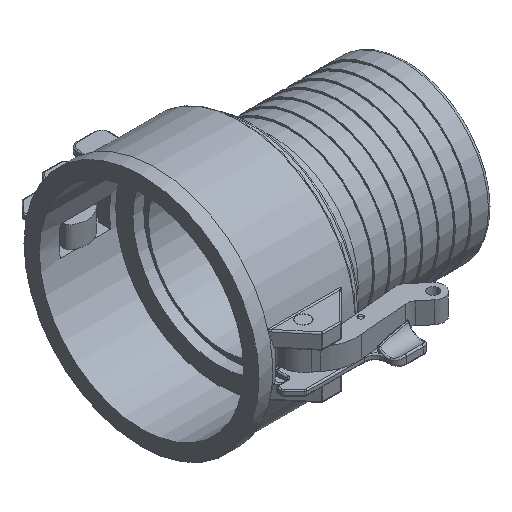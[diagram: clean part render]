
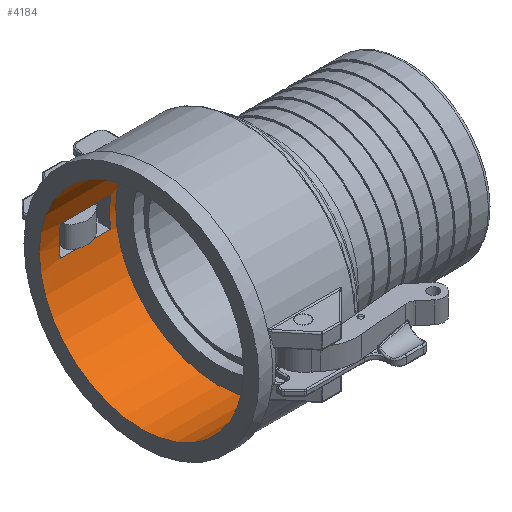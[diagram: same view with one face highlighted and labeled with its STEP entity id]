
A CAD part, isometric view. The second image highlights one B-rep face of the part: STEP entity #4184.
In plain terms, the highlighted cylindrical face has radius 60.198 mm (diameter 120.396 mm), a full revolution.
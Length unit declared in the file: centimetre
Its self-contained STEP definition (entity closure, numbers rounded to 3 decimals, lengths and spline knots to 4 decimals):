
#313=VECTOR('',#5525,1.);
#333=VECTOR('',#5613,1.);
#352=VECTOR('',#5698,1.);
#354=VECTOR('',#5709,1.);
#513=LINE('',#8021,#313);
#533=LINE('',#8384,#333);
#552=LINE('',#8708,#352);
#554=LINE('',#8719,#354);
#1562=VERTEX_POINT('',#8020);
#1563=VERTEX_POINT('',#8022);
#1581=VERTEX_POINT('',#8383);
#1582=VERTEX_POINT('',#8385);
#1600=VERTEX_POINT('',#8707);
#1601=VERTEX_POINT('',#8709);
#1602=VERTEX_POINT('',#8716);
#1603=VERTEX_POINT('',#8718);
#1604=VERTEX_POINT('',#8725);
#1605=VERTEX_POINT('',#8727);
#1832=CIRCLE('',#4647,6.0198);
#1833=CIRCLE('',#4648,6.0198);
#1834=CIRCLE('',#4650,6.0198);
#1835=CIRCLE('',#4651,6.0198);
#1836=CIRCLE('',#4653,6.0198);
#1837=CIRCLE('',#4654,6.0198);
#2245=EDGE_CURVE('',#1563,#1562,#513,.T.);
#2284=EDGE_CURVE('',#1582,#1581,#533,.T.);
#2323=EDGE_CURVE('',#1601,#1600,#552,.T.);
#2326=EDGE_CURVE('',#1562,#1582,#1832,.T.);
#2328=EDGE_CURVE('',#1600,#1602,#1833,.T.);
#2330=EDGE_CURVE('',#1602,#1603,#554,.T.);
#2331=EDGE_CURVE('',#1603,#1601,#1834,.T.);
#2332=EDGE_CURVE('',#1581,#1563,#1835,.T.);
#2333=EDGE_CURVE('',#1604,#1604,#1836,.T.);
#2334=EDGE_CURVE('',#1605,#1605,#1837,.T.);
#3303=ORIENTED_EDGE('',*,*,#2333,.F.);
#3304=ORIENTED_EDGE('',*,*,#2334,.T.);
#3305=ORIENTED_EDGE('',*,*,#2330,.T.);
#3306=ORIENTED_EDGE('',*,*,#2331,.T.);
#3307=ORIENTED_EDGE('',*,*,#2323,.T.);
#3308=ORIENTED_EDGE('',*,*,#2328,.T.);
#3309=ORIENTED_EDGE('',*,*,#2245,.T.);
#3310=ORIENTED_EDGE('',*,*,#2326,.T.);
#3311=ORIENTED_EDGE('',*,*,#2284,.T.);
#3312=ORIENTED_EDGE('',*,*,#2332,.T.);
#3623=EDGE_LOOP('',(#3303));
#3624=EDGE_LOOP('',(#3304));
#3625=EDGE_LOOP('',(#3305,#3306,#3307,#3308));
#3626=EDGE_LOOP('',(#3309,#3310,#3311,#3312));
#3933=FACE_BOUND('',#3623,.T.);
#3934=FACE_BOUND('',#3624,.T.);
#3935=FACE_BOUND('',#3625,.T.);
#3936=FACE_BOUND('',#3626,.T.);
#4184=ADVANCED_FACE('',(#3933,#3934,#3935,#3936),#8858,.F.);
#4647=AXIS2_PLACEMENT_3D('',#8715,#5705,#5706);
#4648=AXIS2_PLACEMENT_3D('',#8717,#5707,#5708);
#4650=AXIS2_PLACEMENT_3D('',#8721,#5711,#5712);
#4651=AXIS2_PLACEMENT_3D('',#8722,#5713,#5714);
#4652=AXIS2_PLACEMENT_3D('',#8723,#5715,#5716);
#4653=AXIS2_PLACEMENT_3D('',#8724,#5717,#5718);
#4654=AXIS2_PLACEMENT_3D('',#8726,#5719,#5720);
#5525=DIRECTION('',(1.,0.,0.));
#5613=DIRECTION('',(-1.,0.,0.));
#5698=DIRECTION('',(1.,0.,0.));
#5705=DIRECTION('',(-1.,0.,0.));
#5706=DIRECTION('',(0.,0.,6.02));
#5707=DIRECTION('',(-1.,0.,0.));
#5708=DIRECTION('',(0.,0.,6.02));
#5709=DIRECTION('',(-1.,0.,0.));
#5711=DIRECTION('',(1.,0.,0.));
#5712=DIRECTION('',(0.,0.,6.02));
#5713=DIRECTION('',(1.,0.,0.));
#5714=DIRECTION('',(0.,0.,6.02));
#5715=DIRECTION('',(1.,0.,0.));
#5716=DIRECTION('',(0.,0.,6.02));
#5717=DIRECTION('',(1.,0.,0.));
#5718=DIRECTION('',(0.,0.,6.02));
#5719=DIRECTION('',(1.,0.,0.));
#5720=DIRECTION('',(0.,0.,6.02));
#8020=CARTESIAN_POINT('',(4.1402,-5.9557,-0.8763));
#8021=CARTESIAN_POINT('',(2.6543,-5.9557,-0.8763));
#8022=CARTESIAN_POINT('',(1.1684,-5.9557,-0.8763));
#8383=CARTESIAN_POINT('',(1.1684,-5.9557,0.8763));
#8384=CARTESIAN_POINT('',(2.6543,-5.9557,0.8763));
#8385=CARTESIAN_POINT('',(4.1402,-5.9557,0.8763));
#8707=CARTESIAN_POINT('',(4.1402,5.9557,0.8763));
#8708=CARTESIAN_POINT('',(2.6543,5.9557,0.8763));
#8709=CARTESIAN_POINT('',(1.1684,5.9557,0.8763));
#8715=CARTESIAN_POINT('',(4.1402,0.,0.));
#8716=CARTESIAN_POINT('',(4.1402,5.9557,-0.8763));
#8717=CARTESIAN_POINT('',(4.1402,0.,0.));
#8718=CARTESIAN_POINT('',(1.1684,5.9557,-0.8763));
#8719=CARTESIAN_POINT('',(2.6543,5.9557,-0.8763));
#8721=CARTESIAN_POINT('',(1.1684,0.,0.));
#8722=CARTESIAN_POINT('',(1.1684,0.,0.));
#8723=CARTESIAN_POINT('',(0.,0.,0.));
#8724=CARTESIAN_POINT('',(0.,0.,0.));
#8725=CARTESIAN_POINT('',(0.,0.,6.0198));
#8726=CARTESIAN_POINT('',(4.4958,0.,0.));
#8727=CARTESIAN_POINT('',(4.4958,0.,-6.0198));
#8858=CYLINDRICAL_SURFACE('',#4652,6.0198);
